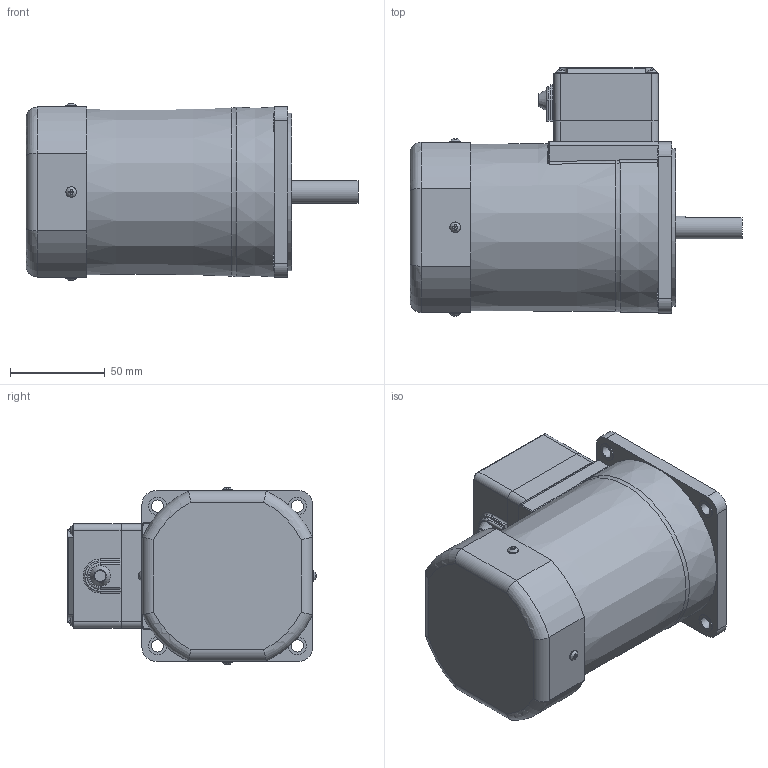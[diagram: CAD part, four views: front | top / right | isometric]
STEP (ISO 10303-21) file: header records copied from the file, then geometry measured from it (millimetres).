
FILE_DESCRIPTION((''),'2;1');
FILE_NAME('D:\김성묵\업무폴더\개발 파일\프로젝트 개발 AB등급\AC표준형 개발자료\90각 이하 표준형 개발\도면작성 자료\3D 도면\홈페이지용 3D 파일\90W MOTOR\T1 BOX TYPE\S9(I,R)90D-T1.stp','2015-03-26T19:05:15',('smkim'),(''),'Autodesk Inventor 2012','Autodesk Inventor 2012','');
FILE_SCHEMA(('AUTOMOTIVE_DESIGN { 1 0 10303 214 1 1 1 1 }'));
Length unit declared in the file: millimetre
Products named in the file (9): S9(I,R)90D-T1; S9I90GㅁTCE; FAN COVER; 552300620; 80 각 T1 BOX_CORD BUSH; 25W T1 BOX CORD BUSH G; 80각 T1 BOX; S9I60D
Assembly tree (15 placements, depth 3):
  S9(I,R)90D-T1
    S9I90GㅁTCE
    FAN COVER
      FAN COVER
      552300620  x4
    80 각 T1 BOX_CORD BUSH
      25W T1 BOX CORD BUSH G
      80각 T1 BOX
    552300620  x4
    S9I60D
Bounding box: 174.8 x 130.75 x 93.49 mm (x, y, z)
Volume: 1097600.9 mm3; surface area: 113114.4 mm2
Topology: 14 solids, 14 shells, 379 faces, 905 edges, 579 vertices
Faces by surface type: plane 218, cylinder 90, bspline 28, torus 27, cone 16
Full cylindrical faces by diameter (mm): 3 x12, 3.5 x4, 5.6 x8, 6.5 x4, 8 x1, 9.5 x4, 12 x1, 40 x1, 83 x1, 86 x1
Entity records: 7529 total; most frequent: CARTESIAN_POINT 2016, DIRECTION 1101, ORIENTED_EDGE 1026, EDGE_CURVE 513, AXIS2_PLACEMENT_3D 421, VERTEX_POINT 351, EDGE_LOOP 298, VECTOR 259
